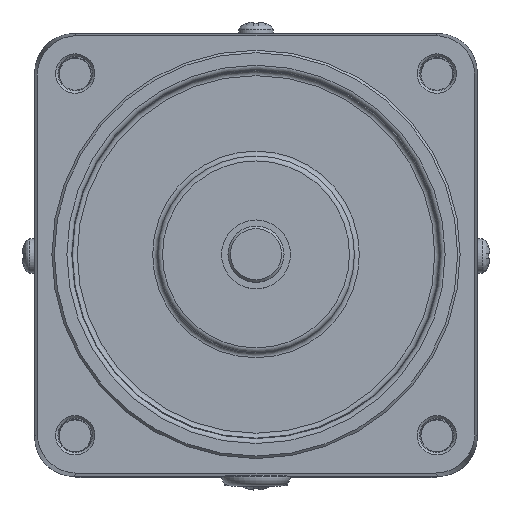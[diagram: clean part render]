
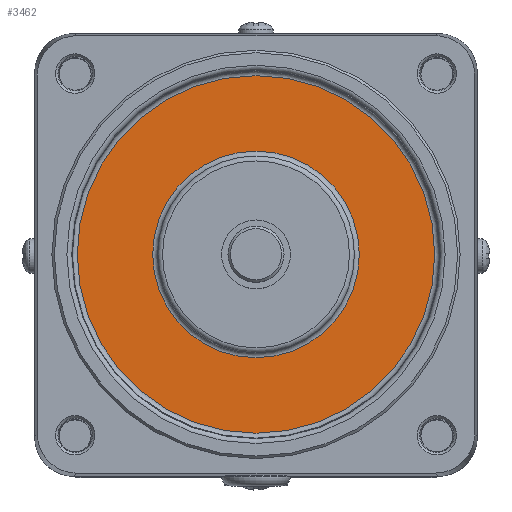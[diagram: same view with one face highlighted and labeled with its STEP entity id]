
A CAD part, top view. The second image highlights one B-rep face of the part: STEP entity #3462.
In plain terms, the highlighted planar face has unit normal (0, 0, 1).
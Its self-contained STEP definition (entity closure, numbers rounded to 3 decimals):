
#609 = CARTESIAN_POINT ( 'NONE',  ( 0., 0., 71.5 ) ) ;
#1663 = DIRECTION ( 'NONE',  ( 0., 0., 1. ) ) ;
#1844 = CIRCLE ( 'NONE', #5814, 21. ) ;
#2047 = ORIENTED_EDGE ( 'NONE', *, *, #11497, .T. ) ;
#3368 = AXIS2_PLACEMENT_3D ( 'NONE', #609, #6365, #9835 ) ;
#3462 = ADVANCED_FACE ( 'NONE', ( #9872, #14585 ), #7559, .T. ) ;
#4535 = CARTESIAN_POINT ( 'NONE',  ( 36.341, 0., 71.5 ) ) ;
#5814 = AXIS2_PLACEMENT_3D ( 'NONE', #8435, #13052, #5961 ) ;
#5961 = DIRECTION ( 'NONE',  ( 1., 0., 0. ) ) ;
#6229 = VERTEX_POINT ( 'NONE', #11078 ) ;
#6365 = DIRECTION ( 'NONE',  ( 0., 0., 1. ) ) ;
#6917 = AXIS2_PLACEMENT_3D ( 'NONE', #12263, #1663, #11099 ) ;
#7559 = PLANE ( 'NONE',  #6917 ) ;
#8435 = CARTESIAN_POINT ( 'NONE',  ( 0., 0., 71.5 ) ) ;
#9835 = DIRECTION ( 'NONE',  ( 1., 0., 0. ) ) ;
#9872 = FACE_OUTER_BOUND ( 'NONE', #10531, .T. ) ;
#10266 = CIRCLE ( 'NONE', #3368, 36.341 ) ;
#10466 = VERTEX_POINT ( 'NONE', #4535 ) ;
#10531 = EDGE_LOOP ( 'NONE', ( #2047 ) ) ;
#11078 = CARTESIAN_POINT ( 'NONE',  ( 21., 0., 71.5 ) ) ;
#11099 = DIRECTION ( 'NONE',  ( 1., 0., 0. ) ) ;
#11497 = EDGE_CURVE ( 'NONE', #10466, #10466, #10266, .T. ) ;
#12263 = CARTESIAN_POINT ( 'NONE',  ( 0., 0., 71.5 ) ) ;
#12675 = EDGE_LOOP ( 'NONE', ( #15205 ) ) ;
#13052 = DIRECTION ( 'NONE',  ( 0., 0., -1. ) ) ;
#14176 = EDGE_CURVE ( 'NONE', #6229, #6229, #1844, .T. ) ;
#14585 = FACE_BOUND ( 'NONE', #12675, .T. ) ;
#15205 = ORIENTED_EDGE ( 'NONE', *, *, #14176, .T. ) ;
